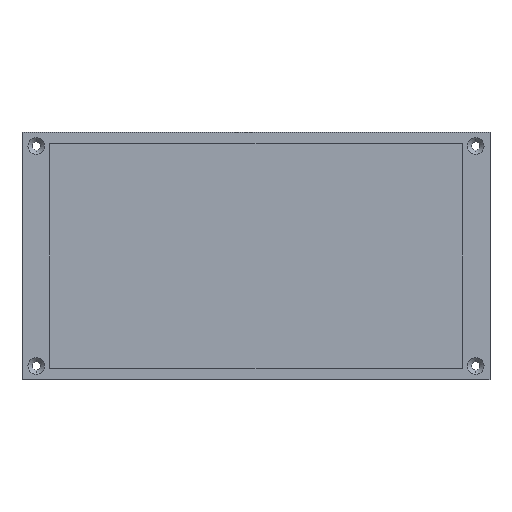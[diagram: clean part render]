
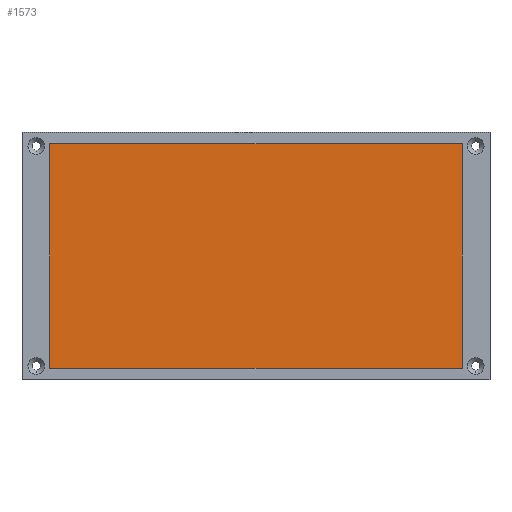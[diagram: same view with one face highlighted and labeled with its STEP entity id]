
A CAD part, front view. The second image highlights one B-rep face of the part: STEP entity #1573.
In plain terms, the highlighted planar face has unit normal (0, -1, 0).
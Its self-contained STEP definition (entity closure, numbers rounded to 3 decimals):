
#24 = PLANE ( 'NONE',  #447 ) ;
#104 = CARTESIAN_POINT ( 'NONE',  ( 72.35, 1.3, 39.4 ) ) ;
#139 = DIRECTION ( 'NONE',  ( 1., 0., 0. ) ) ;
#146 = VERTEX_POINT ( 'NONE', #734 ) ;
#154 = DIRECTION ( 'NONE',  ( 0., -1., 0. ) ) ;
#186 = VECTOR ( 'NONE', #895, 1000. ) ;
#208 = CARTESIAN_POINT ( 'NONE',  ( -72.35, 1.3, -39.4 ) ) ;
#316 = LINE ( 'NONE', #1232, #653 ) ;
#349 = ORIENTED_EDGE ( 'NONE', *, *, #1383, .T. ) ;
#386 = DIRECTION ( 'NONE',  ( 0., 0., 1. ) ) ;
#392 = VERTEX_POINT ( 'NONE', #1039 ) ;
#402 = CARTESIAN_POINT ( 'NONE',  ( 72.35, 1.3, 39.4 ) ) ;
#447 = AXIS2_PLACEMENT_3D ( 'NONE', #1793, #154, #1779 ) ;
#470 = VECTOR ( 'NONE', #139, 1000. ) ;
#508 = LINE ( 'NONE', #402, #1204 ) ;
#653 = VECTOR ( 'NONE', #1251, 1000. ) ;
#734 = CARTESIAN_POINT ( 'NONE',  ( -72.35, 1.3, -39.4 ) ) ;
#817 = ORIENTED_EDGE ( 'NONE', *, *, #1306, .T. ) ;
#890 = CARTESIAN_POINT ( 'NONE',  ( -72.35, 1.3, 39.4 ) ) ;
#895 = DIRECTION ( 'NONE',  ( -1., 0., 0. ) ) ;
#1039 = CARTESIAN_POINT ( 'NONE',  ( -72.35, 1.3, 39.4 ) ) ;
#1085 = LINE ( 'NONE', #208, #470 ) ;
#1204 = VECTOR ( 'NONE', #386, 1000. ) ;
#1211 = LINE ( 'NONE', #890, #186 ) ;
#1232 = CARTESIAN_POINT ( 'NONE',  ( -72.35, 1.3, 39.4 ) ) ;
#1251 = DIRECTION ( 'NONE',  ( 0., 0., -1. ) ) ;
#1294 = VERTEX_POINT ( 'NONE', #1429 ) ;
#1306 = EDGE_CURVE ( 'NONE', #392, #146, #316, .T. ) ;
#1383 = EDGE_CURVE ( 'NONE', #1560, #392, #1211, .T. ) ;
#1410 = FACE_OUTER_BOUND ( 'NONE', #1678, .T. ) ;
#1429 = CARTESIAN_POINT ( 'NONE',  ( 72.35, 1.3, -39.4 ) ) ;
#1478 = ORIENTED_EDGE ( 'NONE', *, *, #1488, .T. ) ;
#1488 = EDGE_CURVE ( 'NONE', #1294, #1560, #508, .T. ) ;
#1538 = EDGE_CURVE ( 'NONE', #146, #1294, #1085, .T. ) ;
#1560 = VERTEX_POINT ( 'NONE', #104 ) ;
#1566 = ORIENTED_EDGE ( 'NONE', *, *, #1538, .T. ) ;
#1573 = ADVANCED_FACE ( 'NONE', ( #1410 ), #24, .T. ) ;
#1678 = EDGE_LOOP ( 'NONE', ( #817, #1566, #1478, #349 ) ) ;
#1779 = DIRECTION ( 'NONE',  ( 0., 0., -1. ) ) ;
#1793 = CARTESIAN_POINT ( 'NONE',  ( 0., 1.3, 0. ) ) ;
